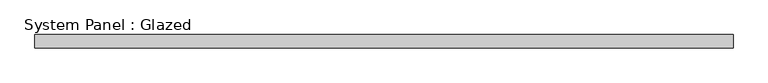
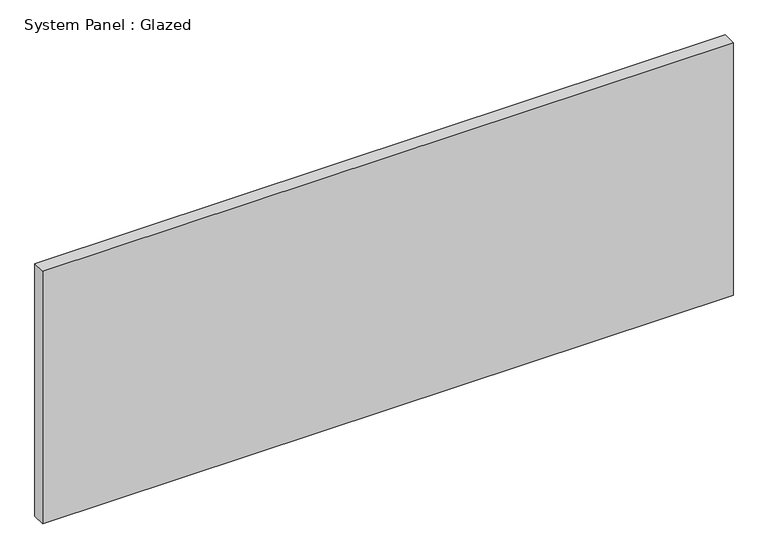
"""IFC4 building model written with IfcOpenShell, lengths in millimetres: plate geometry, System Panel : Glazed."""

from ifc_helpers import new_model, si_unit, origin, origin_with_axes, place, context, project, spatial, polyline, outline, extrude, source, transform, mapped, element, save


def system_panel_glazed_683c37fb(model_context):
    return source(origin(), model_context, "Body", "SweptSolid", [
        extrude(outline(polyline([(661.0330663, 19.05), (-661.0330663, 19.05), (-661.0330663, 44.45), (661.0330663, 44.45), (661.0330663, 19.05)])), origin_with_axes(), (0.0, 0.0, 1.0), 511.3509366),
    ])


if __name__ == "__main__":
    model = new_model("IFC4")
    model_context = context("Model", 3, world=origin())
    ifc_project = project(units=[si_unit("LENGTHUNIT", "METRE", prefix="MILLI")], contexts=[model_context])
    site = spatial("IfcSite", under=ifc_project)
    building = spatial("IfcBuilding", under=site)
    placement = place(None, origin())
    system_panel_glazed_shape = system_panel_glazed_683c37fb(model_context)
    element("IfcPlate", 1, ObjectType="System Panel : Glazed", at=placement, inside=building, context=model_context, shape_type="MappedRepresentation", body=[
        mapped(system_panel_glazed_shape, transform((0.0, 0.0, 0.0), x_axis=(1.0, 0.0, 0.0), y_axis=(0.0, 1.0, 0.0), z_axis=(0.0, 0.0, 1.0))),
    ])
    save(model, "model.ifc")
